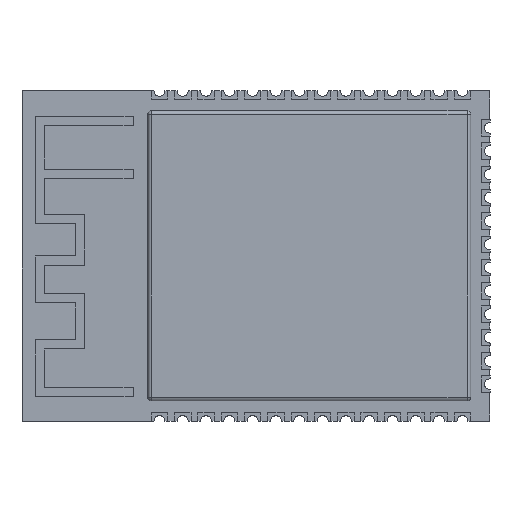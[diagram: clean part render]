
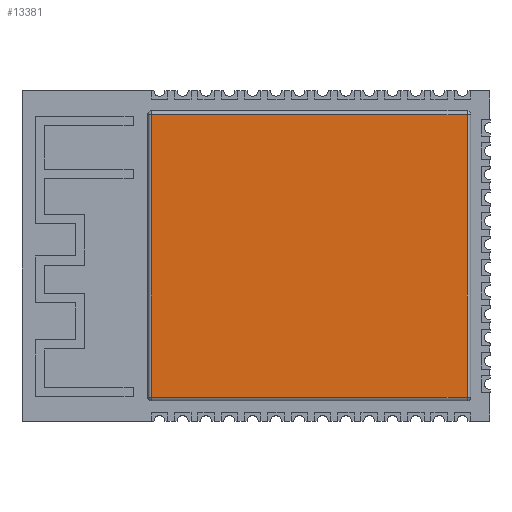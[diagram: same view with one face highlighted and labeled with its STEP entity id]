
A CAD part, top view. The second image highlights one B-rep face of the part: STEP entity #13381.
In plain terms, the highlighted planar face has unit normal (0, 0, 1).
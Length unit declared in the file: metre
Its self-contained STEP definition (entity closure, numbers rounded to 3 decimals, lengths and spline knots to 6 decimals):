
#3185=ORIENTED_EDGE('',*,*,#5602,.T.);
#3186=ORIENTED_EDGE('',*,*,#5589,.T.);
#3187=ORIENTED_EDGE('',*,*,#5598,.T.);
#3188=ORIENTED_EDGE('',*,*,#5614,.T.);
#5589=EDGE_CURVE('',#6906,#6909,#8531,.T.);
#5598=EDGE_CURVE('',#6909,#6915,#8534,.T.);
#5602=EDGE_CURVE('',#6916,#6906,#8537,.T.);
#5614=EDGE_CURVE('',#6915,#6916,#8543,.T.);
#6906=VERTEX_POINT('',#24901);
#6909=VERTEX_POINT('',#24906);
#6915=VERTEX_POINT('',#24925);
#6916=VERTEX_POINT('',#24930);
#8531=LINE('',#24907,#10239);
#8534=LINE('',#24926,#10242);
#8537=LINE('',#24933,#10245);
#8543=LINE('',#24956,#10251);
#10239=VECTOR('',#20542,1.);
#10242=VECTOR('',#20565,1.);
#10245=VECTOR('',#20572,1.);
#10251=VECTOR('',#20600,1.);
#10923=EDGE_LOOP('',(#3185,#3186,#3187,#3188));
#11577=FACE_BOUND('',#10923,.T.);
#12177=PLANE('',#17598);
#13381=ADVANCED_FACE('',(#11577),#12177,.F.);
#17598=AXIS2_PLACEMENT_3D('',#24963,#20607,#20608);
#20542=DIRECTION('',(0.,1.,0.));
#20565=DIRECTION('',(-1.,0.,0.));
#20572=DIRECTION('',(1.,0.,0.));
#20600=DIRECTION('',(0.,-1.,0.));
#20607=DIRECTION('',(0.,0.,-1.));
#20608=DIRECTION('',(0.,-1.,0.));
#24901=CARTESIAN_POINT('',(-0.121986,-0.060414,0.01261));
#24906=CARTESIAN_POINT('',(-0.121986,-0.045014,0.01261));
#24907=CARTESIAN_POINT('',(-0.121986,-0.052714,0.01261));
#24925=CARTESIAN_POINT('',(-0.139186,-0.045014,0.01261));
#24926=CARTESIAN_POINT('',(-0.133486,-0.045014,0.01261));
#24930=CARTESIAN_POINT('',(-0.139186,-0.060414,0.01261));
#24933=CARTESIAN_POINT('',(-0.133486,-0.060414,0.01261));
#24956=CARTESIAN_POINT('',(-0.139186,-0.052714,0.01261));
#24963=CARTESIAN_POINT('',(-0.133486,-0.052714,0.01261));
